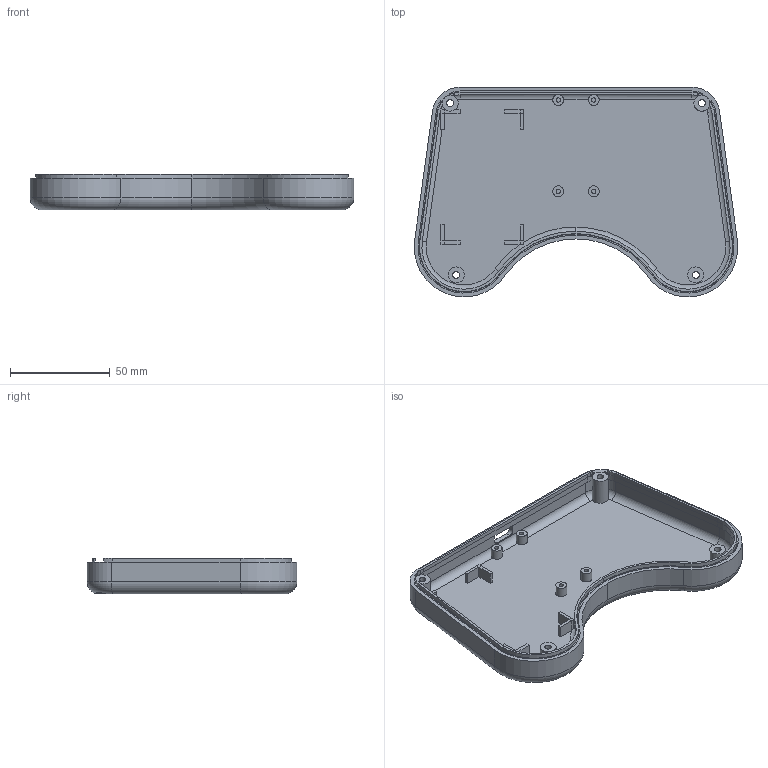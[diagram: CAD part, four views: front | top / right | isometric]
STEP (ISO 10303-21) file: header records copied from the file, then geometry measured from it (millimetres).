
FILE_DESCRIPTION(('FreeCAD Model'),'2;1');
FILE_NAME('Open CASCADE Shape Model','2026-10-21T11:20:03',('Author'),( ''),'Open CASCADE STEP processor 7.9','FreeCAD','Unknown');
FILE_SCHEMA(('AUTOMOTIVE_DESIGN { 1 0 10303 214 1 1 1 1 }'));
Length unit declared in the file: millimetre
Products named in the file (1): Controller_Bottom_Shell
Bounding box: 161.98 x 104.98 x 18 mm (x, y, z)
Volume: 54772.4 mm3; surface area: 47039.6 mm2
Topology: 1 solids, 1 shells, 377 faces, 998 edges, 650 vertices
Faces by surface type: plane 198, cylinder 89, extrusion 76, torus 14
Full cylindrical faces by diameter (mm): 2.2 x4, 3.4 x4, 5.5 x4, 6.5 x4, 8 x2
Entity records: 12973 total; most frequent: CARTESIAN_POINT 3705, ORIENTED_EDGE 1996, DIRECTION 1745, EDGE_CURVE 998, VECTOR 673, VERTEX_POINT 650, LINE 597, AXIS2_PLACEMENT_3D 536
